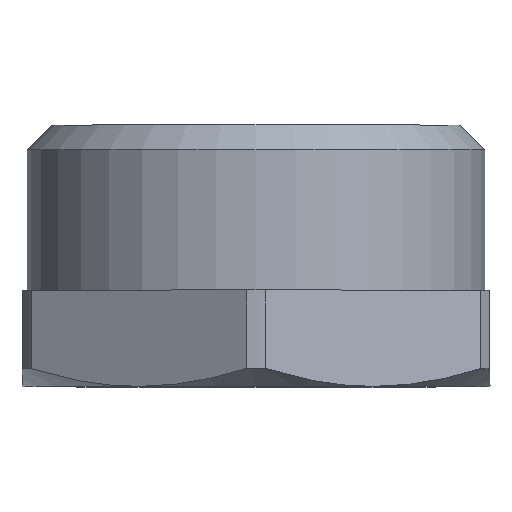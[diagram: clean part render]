
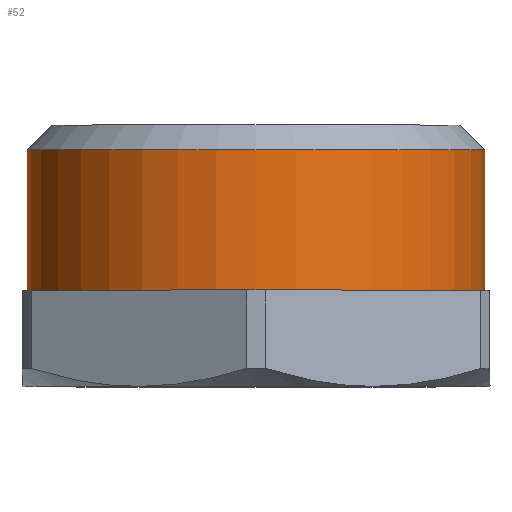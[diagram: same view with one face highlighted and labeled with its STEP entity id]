
A CAD part, top view. The second image highlights one B-rep face of the part: STEP entity #52.
In plain terms, the highlighted cylindrical face has radius 16.625 mm (diameter 33.249 mm), a full revolution.
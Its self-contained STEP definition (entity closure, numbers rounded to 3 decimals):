
#52=ADVANCED_FACE('',(#132,#134),#136,.T.);
#132=FACE_OUTER_BOUND('',#133,.T.);
#133=EDGE_LOOP('',(#283));
#134=FACE_OUTER_BOUND('',#135,.T.);
#135=EDGE_LOOP('',(#284));
#136=CYLINDRICAL_SURFACE('',#137,16.625);
#137=AXIS2_PLACEMENT_3D('',#138,#139,#140);
#138=CARTESIAN_POINT('',(0.,0.,0.));
#139=DIRECTION('',(0.,1.,0.));
#140=DIRECTION('',(-1.,0.,0.));
#283=ORIENTED_EDGE('',*,*,#363,.F.);
#284=ORIENTED_EDGE('',*,*,#380,.T.);
#363=EDGE_CURVE('',#423,#423,#424,.T.);
#380=EDGE_CURVE('',#453,#453,#454,.T.);
#423=VERTEX_POINT('',#536);
#424=CIRCLE('',#537,16.625);
#453=VERTEX_POINT('',#963);
#454=CIRCLE('',#964,16.625);
#536=CARTESIAN_POINT('',(-16.625,17.2,0.));
#537=AXIS2_PLACEMENT_3D('',#538,#539,#540);
#538=CARTESIAN_POINT('',(0.,17.2,0.));
#539=DIRECTION('',(0.,1.,0.));
#540=DIRECTION('',(-1.,0.,0.));
#963=CARTESIAN_POINT('',(-16.625,7.,0.));
#964=AXIS2_PLACEMENT_3D('',#965,#966,#967);
#965=CARTESIAN_POINT('',(0.,7.,0.));
#966=DIRECTION('',(0.,1.,0.));
#967=DIRECTION('',(-1.,0.,0.));
